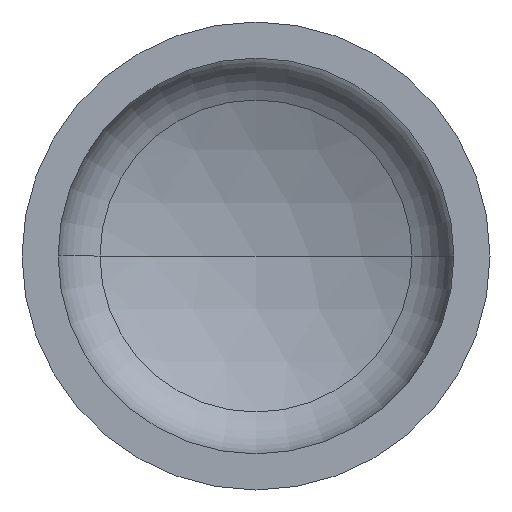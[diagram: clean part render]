
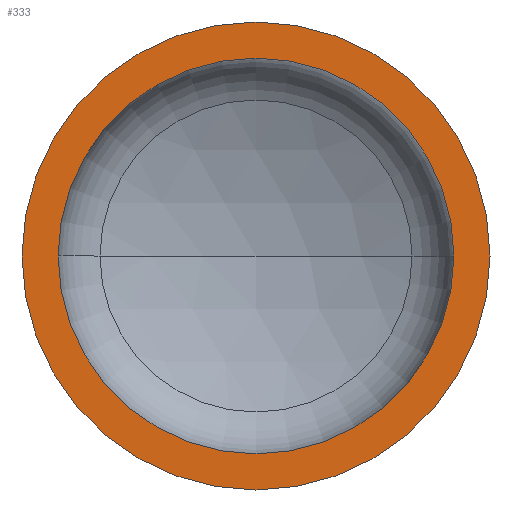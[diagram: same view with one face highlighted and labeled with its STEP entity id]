
A CAD part, front view. The second image highlights one B-rep face of the part: STEP entity #333.
In plain terms, the highlighted planar face has unit normal (0, -1, 0).
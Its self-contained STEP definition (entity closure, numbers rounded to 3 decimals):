
#4 = AXIS2_PLACEMENT_3D ( 'NONE', #159, #365, #185 ) ;
#7 = CIRCLE ( 'NONE', #45, 592. ) ;
#13 = DIRECTION ( 'NONE',  ( 1., 0., 0. ) ) ;
#22 = CARTESIAN_POINT ( 'NONE',  ( 592., 0., 0. ) ) ;
#25 = PLANE ( 'NONE',  #294 ) ;
#26 = AXIS2_PLACEMENT_3D ( 'NONE', #390, #210, #13 ) ;
#32 = CARTESIAN_POINT ( 'NONE',  ( -700., 0., 0. ) ) ;
#45 = AXIS2_PLACEMENT_3D ( 'NONE', #352, #173, #383 ) ;
#47 = AXIS2_PLACEMENT_3D ( 'NONE', #94, #296, #124 ) ;
#63 = EDGE_CURVE ( 'NONE', #87, #123, #337, .T. ) ;
#65 = EDGE_CURVE ( 'NONE', #351, #373, #7, .T. ) ;
#87 = VERTEX_POINT ( 'NONE', #32 ) ;
#94 = CARTESIAN_POINT ( 'NONE',  ( 0., 0., 0. ) ) ;
#123 = VERTEX_POINT ( 'NONE', #232 ) ;
#124 = DIRECTION ( 'NONE',  ( 1., 0., 0. ) ) ;
#159 = CARTESIAN_POINT ( 'NONE',  ( 0., 0., 0. ) ) ;
#173 = DIRECTION ( 'NONE',  ( 0., -1., 0. ) ) ;
#185 = DIRECTION ( 'NONE',  ( 1., 0., 0. ) ) ;
#194 = FACE_OUTER_BOUND ( 'NONE', #293, .T. ) ;
#195 = EDGE_LOOP ( 'NONE', ( #273, #246 ) ) ;
#210 = DIRECTION ( 'NONE',  ( 0., -1., 0. ) ) ;
#217 = DIRECTION ( 'NONE',  ( -1., 0., 0. ) ) ;
#232 = CARTESIAN_POINT ( 'NONE',  ( 700., 0., 0. ) ) ;
#246 = ORIENTED_EDGE ( 'NONE', *, *, #270, .F. ) ;
#270 = EDGE_CURVE ( 'NONE', #373, #351, #328, .T. ) ;
#271 = FACE_BOUND ( 'NONE', #195, .T. ) ;
#273 = ORIENTED_EDGE ( 'NONE', *, *, #65, .F. ) ;
#280 = ORIENTED_EDGE ( 'NONE', *, *, #63, .T. ) ;
#281 = CARTESIAN_POINT ( 'NONE',  ( -592., 0., 0. ) ) ;
#293 = EDGE_LOOP ( 'NONE', ( #376, #280 ) ) ;
#294 = AXIS2_PLACEMENT_3D ( 'NONE', #309, #396, #217 ) ;
#296 = DIRECTION ( 'NONE',  ( 0., -1., 0. ) ) ;
#309 = CARTESIAN_POINT ( 'NONE',  ( -700., 0., 0. ) ) ;
#325 = EDGE_CURVE ( 'NONE', #123, #87, #350, .T. ) ;
#328 = CIRCLE ( 'NONE', #26, 592. ) ;
#333 = ADVANCED_FACE ( 'NONE', ( #271, #194 ), #25, .F. ) ;
#337 = CIRCLE ( 'NONE', #47, 700. ) ;
#350 = CIRCLE ( 'NONE', #4, 700. ) ;
#351 = VERTEX_POINT ( 'NONE', #22 ) ;
#352 = CARTESIAN_POINT ( 'NONE',  ( 0., 0., 0. ) ) ;
#365 = DIRECTION ( 'NONE',  ( 0., -1., 0. ) ) ;
#373 = VERTEX_POINT ( 'NONE', #281 ) ;
#376 = ORIENTED_EDGE ( 'NONE', *, *, #325, .T. ) ;
#383 = DIRECTION ( 'NONE',  ( 1., 0., 0. ) ) ;
#390 = CARTESIAN_POINT ( 'NONE',  ( 0., 0., 0. ) ) ;
#396 = DIRECTION ( 'NONE',  ( 0., 1., 0. ) ) ;
